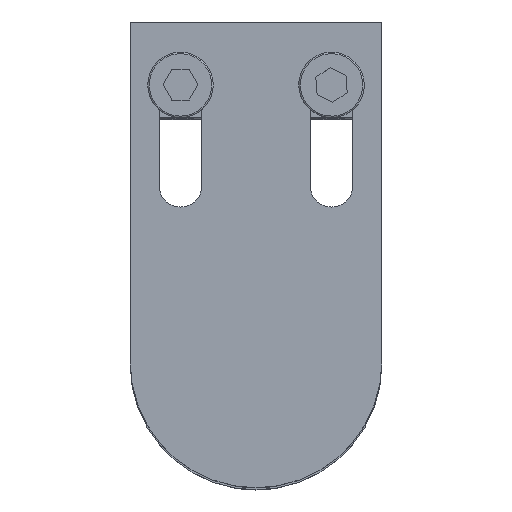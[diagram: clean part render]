
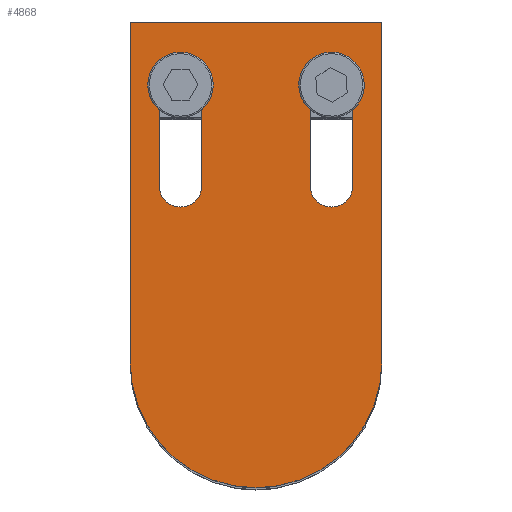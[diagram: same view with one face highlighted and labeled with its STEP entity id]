
A CAD part, top view. The second image highlights one B-rep face of the part: STEP entity #4868.
In plain terms, the highlighted planar face has unit normal (0, 0, 1) as drawn and (0, 0, -1) by its records, which use the part's own axes.
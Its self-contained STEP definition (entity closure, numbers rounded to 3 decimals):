
#38 = CARTESIAN_POINT ( 'NONE',  ( 25., 0., -6. ) ) ;
#61 = CARTESIAN_POINT ( 'NONE',  ( 19.25, 55., -6. ) ) ;
#77 = CARTESIAN_POINT ( 'NONE',  ( 0., 0., -6. ) ) ;
#149 = VECTOR ( 'NONE', #2025, 1000. ) ;
#179 = ORIENTED_EDGE ( 'NONE', *, *, #2965, .T. ) ;
#209 = CARTESIAN_POINT ( 'NONE',  ( 25., 0., -6. ) ) ;
#253 = ORIENTED_EDGE ( 'NONE', *, *, #4581, .F. ) ;
#304 = VERTEX_POINT ( 'NONE', #663 ) ;
#306 = AXIS2_PLACEMENT_3D ( 'NONE', #77, #4319, #1171 ) ;
#311 = ORIENTED_EDGE ( 'NONE', *, *, #3026, .T. ) ;
#341 = DIRECTION ( 'NONE',  ( 1., 0., 0. ) ) ;
#398 = CARTESIAN_POINT ( 'NONE',  ( 19.25, 35., -6. ) ) ;
#460 = CARTESIAN_POINT ( 'NONE',  ( 15., 35., -6. ) ) ;
#463 = CARTESIAN_POINT ( 'NONE',  ( -10.75, 35., -6. ) ) ;
#495 = CARTESIAN_POINT ( 'NONE',  ( -15., 35., -6. ) ) ;
#557 = CARTESIAN_POINT ( 'NONE',  ( 10.75, 55., -6. ) ) ;
#604 = FACE_OUTER_BOUND ( 'NONE', #1419, .T. ) ;
#645 = CARTESIAN_POINT ( 'NONE',  ( -19.25, 55., -6. ) ) ;
#653 = EDGE_CURVE ( 'NONE', #2341, #1109, #2889, .T. ) ;
#663 = CARTESIAN_POINT ( 'NONE',  ( -10.75, 55., -6. ) ) ;
#848 = DIRECTION ( 'NONE',  ( 0., 1., 0. ) ) ;
#865 = DIRECTION ( 'NONE',  ( -1., 0., 0. ) ) ;
#888 = LINE ( 'NONE', #3794, #4303 ) ;
#910 = CARTESIAN_POINT ( 'NONE',  ( 10.75, 35., -6. ) ) ;
#1109 = VERTEX_POINT ( 'NONE', #398 ) ;
#1120 = DIRECTION ( 'NONE',  ( 0., 0., 1. ) ) ;
#1171 = DIRECTION ( 'NONE',  ( 1., 0., 0. ) ) ;
#1193 = VECTOR ( 'NONE', #3012, 1000. ) ;
#1223 = EDGE_LOOP ( 'NONE', ( #4461, #3467, #311, #3661 ) ) ;
#1247 = CARTESIAN_POINT ( 'NONE',  ( 19.25, 35., -6. ) ) ;
#1413 = CARTESIAN_POINT ( 'NONE',  ( -10.75, 35., -6. ) ) ;
#1419 = EDGE_LOOP ( 'NONE', ( #4526, #253, #3703, #2698 ) ) ;
#1425 = EDGE_CURVE ( 'NONE', #3531, #3227, #2499, .T. ) ;
#1513 = AXIS2_PLACEMENT_3D ( 'NONE', #460, #3270, #865 ) ;
#1552 = PLANE ( 'NONE',  #306 ) ;
#1603 = EDGE_CURVE ( 'NONE', #3228, #4395, #1803, .T. ) ;
#1671 = DIRECTION ( 'NONE',  ( 0., 0., 1. ) ) ;
#1707 = VECTOR ( 'NONE', #2535, 1000. ) ;
#1716 = CARTESIAN_POINT ( 'NONE',  ( 10.75, 35., -6. ) ) ;
#1803 = LINE ( 'NONE', #38, #3381 ) ;
#1933 = DIRECTION ( 'NONE',  ( -1., 0., 0. ) ) ;
#1945 = VERTEX_POINT ( 'NONE', #1413 ) ;
#1993 = VECTOR ( 'NONE', #2506, 1000. ) ;
#2025 = DIRECTION ( 'NONE',  ( 0., 1., 0. ) ) ;
#2188 = EDGE_CURVE ( 'NONE', #304, #4650, #3068, .T. ) ;
#2227 = ORIENTED_EDGE ( 'NONE', *, *, #2474, .T. ) ;
#2341 = VERTEX_POINT ( 'NONE', #910 ) ;
#2474 = EDGE_CURVE ( 'NONE', #3227, #2341, #3156, .T. ) ;
#2487 = CARTESIAN_POINT ( 'NONE',  ( -19.25, 35., -6. ) ) ;
#2499 = CIRCLE ( 'NONE', #2717, 4.25 ) ;
#2503 = EDGE_LOOP ( 'NONE', ( #2227, #4606, #179, #3968 ) ) ;
#2506 = DIRECTION ( 'NONE',  ( 0., -1., 0. ) ) ;
#2535 = DIRECTION ( 'NONE',  ( 0., -1., 0. ) ) ;
#2581 = DIRECTION ( 'NONE',  ( 0., 0., 1. ) ) ;
#2698 = ORIENTED_EDGE ( 'NONE', *, *, #1603, .F. ) ;
#2717 = AXIS2_PLACEMENT_3D ( 'NONE', #3927, #4331, #1933 ) ;
#2803 = CARTESIAN_POINT ( 'NONE',  ( 25., 67.5, -6. ) ) ;
#2835 = FACE_BOUND ( 'NONE', #2503, .T. ) ;
#2884 = DIRECTION ( 'NONE',  ( 1., 0., 0. ) ) ;
#2889 = CIRCLE ( 'NONE', #1513, 4.25 ) ;
#2898 = AXIS2_PLACEMENT_3D ( 'NONE', #3550, #1120, #341 ) ;
#2965 = EDGE_CURVE ( 'NONE', #1109, #3531, #4503, .T. ) ;
#3012 = DIRECTION ( 'NONE',  ( 0., -1., 0. ) ) ;
#3026 = EDGE_CURVE ( 'NONE', #1945, #304, #5081, .T. ) ;
#3068 = CIRCLE ( 'NONE', #2898, 4.25 ) ;
#3094 = EDGE_CURVE ( 'NONE', #4650, #4343, #3573, .T. ) ;
#3156 = LINE ( 'NONE', #1716, #1707 ) ;
#3227 = VERTEX_POINT ( 'NONE', #557 ) ;
#3228 = VERTEX_POINT ( 'NONE', #209 ) ;
#3234 = EDGE_CURVE ( 'NONE', #3528, #3228, #4490, .T. ) ;
#3244 = AXIS2_PLACEMENT_3D ( 'NONE', #495, #1671, #2884 ) ;
#3270 = DIRECTION ( 'NONE',  ( 0., 0., 1. ) ) ;
#3362 = CIRCLE ( 'NONE', #3244, 4.25 ) ;
#3366 = EDGE_CURVE ( 'NONE', #4395, #4631, #888, .T. ) ;
#3381 = VECTOR ( 'NONE', #3614, 1000. ) ;
#3456 = VECTOR ( 'NONE', #848, 1000. ) ;
#3467 = ORIENTED_EDGE ( 'NONE', *, *, #4920, .T. ) ;
#3528 = VERTEX_POINT ( 'NONE', #4415 ) ;
#3531 = VERTEX_POINT ( 'NONE', #61 ) ;
#3550 = CARTESIAN_POINT ( 'NONE',  ( -15., 55., -6. ) ) ;
#3573 = LINE ( 'NONE', #2487, #1993 ) ;
#3614 = DIRECTION ( 'NONE',  ( 0., 1., 0. ) ) ;
#3661 = ORIENTED_EDGE ( 'NONE', *, *, #2188, .T. ) ;
#3703 = ORIENTED_EDGE ( 'NONE', *, *, #3366, .F. ) ;
#3744 = CARTESIAN_POINT ( 'NONE',  ( 0., 0., -6. ) ) ;
#3794 = CARTESIAN_POINT ( 'NONE',  ( 25., 67.5, -6. ) ) ;
#3886 = FACE_BOUND ( 'NONE', #1223, .T. ) ;
#3927 = CARTESIAN_POINT ( 'NONE',  ( 15., 55., -6. ) ) ;
#3968 = ORIENTED_EDGE ( 'NONE', *, *, #1425, .T. ) ;
#4036 = CARTESIAN_POINT ( 'NONE',  ( -19.25, 35., -6. ) ) ;
#4140 = DIRECTION ( 'NONE',  ( -1., 0., 0. ) ) ;
#4245 = CARTESIAN_POINT ( 'NONE',  ( -25., 67.5, -6. ) ) ;
#4254 = AXIS2_PLACEMENT_3D ( 'NONE', #3744, #2581, #4994 ) ;
#4303 = VECTOR ( 'NONE', #4140, 1000. ) ;
#4319 = DIRECTION ( 'NONE',  ( 0., 0., 1. ) ) ;
#4331 = DIRECTION ( 'NONE',  ( 0., 0., 1. ) ) ;
#4343 = VERTEX_POINT ( 'NONE', #4036 ) ;
#4395 = VERTEX_POINT ( 'NONE', #2803 ) ;
#4415 = CARTESIAN_POINT ( 'NONE',  ( -25., 0., -6. ) ) ;
#4461 = ORIENTED_EDGE ( 'NONE', *, *, #3094, .T. ) ;
#4490 = CIRCLE ( 'NONE', #4254, 25. ) ;
#4503 = LINE ( 'NONE', #1247, #149 ) ;
#4526 = ORIENTED_EDGE ( 'NONE', *, *, #3234, .F. ) ;
#4581 = EDGE_CURVE ( 'NONE', #4631, #3528, #4805, .T. ) ;
#4606 = ORIENTED_EDGE ( 'NONE', *, *, #653, .T. ) ;
#4631 = VERTEX_POINT ( 'NONE', #4245 ) ;
#4650 = VERTEX_POINT ( 'NONE', #645 ) ;
#4805 = LINE ( 'NONE', #4955, #1193 ) ;
#4868 = ADVANCED_FACE ( 'NONE', ( #2835, #3886, #604 ), #1552, .F. ) ;
#4920 = EDGE_CURVE ( 'NONE', #4343, #1945, #3362, .T. ) ;
#4955 = CARTESIAN_POINT ( 'NONE',  ( -25., 0., -6. ) ) ;
#4994 = DIRECTION ( 'NONE',  ( 1., 0., 0. ) ) ;
#5081 = LINE ( 'NONE', #463, #3456 ) ;
